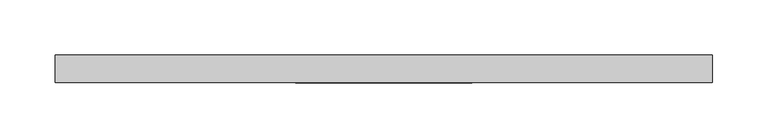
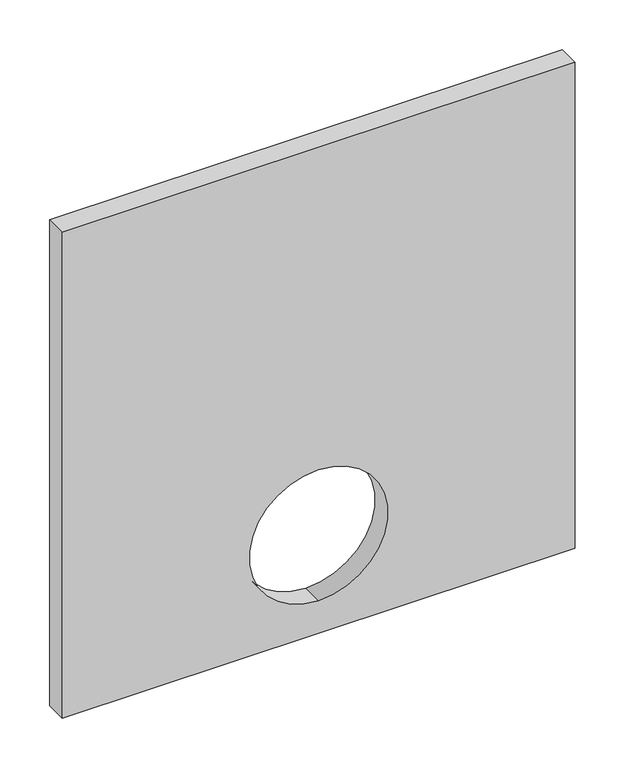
"""IFC4 building model written with IfcOpenShell, lengths in millimetres: valve geometry, Pipelife - Stormbox II - Płyta boczna połączeniowa : Płyta boczna połączeniowa."""

import ifcopenshell
import ifcopenshell.guid

model = None  # the IFC model being written
_history = None  # IfcOwnerHistory: only IFC2X3 demands one
_inside = {}  # id of a spatial element -> (the spatial element, [elements in it])
_under = {}  # id of a project, library or spatial element -> (it, [spatial elements below it])
_declared = {}  # id of a project -> (the project, [libraries it declares])
_typed = {}  # id of a type object -> (the type object, [elements of that type])
_made_of = {}  # id of a material, layer set ... -> (it, [elements and type objects made of it])


def new_model(schema):
    """Start an empty IFC model of exactly this schema.

    Asked for "IFC4X3", IfcOpenShell would pick the latest addendum, in which some entities
    have other attributes; the version numbers below select the first issue.
    IFC2X3 requires an IfcOwnerHistory on every rooted entity: one is made here for all.
    """
    global model, _history
    if schema == "IFC4X3":
        model = ifcopenshell.file(schema_version=(4, 3, 0, 0))
    else:
        model = ifcopenshell.file(schema=schema)
    _inside.clear()
    _under.clear()
    _declared.clear()
    _typed.clear()
    _made_of.clear()
    _history = None
    if model.schema == "IFC2X3":
        org = make("IfcOrganization", Name="unknown")
        user = make(
            "IfcPersonAndOrganization",
            ThePerson=make("IfcPerson", FamilyName="unknown"),
            TheOrganization=org,
        )
        app = make(
            "IfcApplication",
            ApplicationDeveloper=org,
            Version="unknown",
            ApplicationFullName="unknown",
            ApplicationIdentifier="unknown",
        )
        _history = make(
            "IfcOwnerHistory",
            OwningUser=user,
            OwningApplication=app,
            ChangeAction="ADDED",
            CreationDate=0,
        )
    return model


def make(cls, **values):
    """One entity of the class cls with the attributes given. An attribute that is None is left unset."""
    return model.create_entity(
        cls, **{name: value for name, value in values.items() if value is not None}
    )


def rooted(cls, **values):
    """An entity with a GlobalId (a new one), such as an element, a storey or a relation."""
    return make(cls, GlobalId=ifcopenshell.guid.new(), OwnerHistory=_history, **values)


def si_unit(unit_type, name, prefix=None):
    """IfcSIUnit, for example si_unit("LENGTHUNIT", "METRE", prefix="MILLI")."""
    return make("IfcSIUnit", UnitType=unit_type, Prefix=prefix, Name=name)


def assignment(units):
    """IfcUnitAssignment: the units of a project."""
    return None if units is None else make("IfcUnitAssignment", Units=units)


def point(xyz):
    """IfcCartesianPoint."""
    return None if xyz is None else make("IfcCartesianPoint", Coordinates=xyz)


def direction(xyz):
    """IfcDirection."""
    return None if xyz is None else make("IfcDirection", DirectionRatios=xyz)


def frame(location, z_axis=None, x_axis=None):
    """IfcAxis2Placement3D, a coordinate frame: its origin and axes. An axis left out is left unset."""
    return make(
        "IfcAxis2Placement3D",
        Location=point(location),
        Axis=direction(z_axis),
        RefDirection=direction(x_axis),
    )


def frame_2d(location, x_axis=None):
    """IfcAxis2Placement2D, a coordinate frame in the plane: its origin and x axis."""
    return make(
        "IfcAxis2Placement2D", Location=point(location), RefDirection=direction(x_axis)
    )


def origin():
    """The frame at (0, 0, 0) with its axes left unset."""
    return frame((0.0, 0.0, 0.0))


def place(relative_to, where):
    """IfcLocalPlacement: puts the frame where relative to a parent placement (None: the world)."""
    return make(
        "IfcLocalPlacement", PlacementRelTo=relative_to, RelativePlacement=where
    )


def context(
    kind, dimensions, precision=None, world=None, true_north=None, identifier=None
):
    """IfcGeometricRepresentationContext, for example the 3D "Model" context."""
    return make(
        "IfcGeometricRepresentationContext",
        ContextIdentifier=identifier,
        ContextType=kind,
        CoordinateSpaceDimension=dimensions,
        Precision=precision,
        WorldCoordinateSystem=world,
        TrueNorth=true_north,
    )


def project(units=None, contexts=None):
    """IfcProject with its units and contexts."""
    return rooted(
        "IfcProject",
        Name="project",
        RepresentationContexts=contexts,
        UnitsInContext=assignment(units),
    )


def spatial(cls, under=None, at=None, **own):
    """A site, building, storey or space (cls), placed at a placement, below another one or the project."""
    s = rooted(cls, ObjectPlacement=at, **own)
    if under is not None:
        _under.setdefault(under.id(), (under, []))[1].append(s)
    return s


def polyline(points):
    """IfcPolyline through the points."""
    return make("IfcPolyline", Points=[point(p) for p in points])


def circle_curve(where, radius):
    """IfcCircle in the frame where."""
    return make("IfcCircle", Position=where, Radius=radius)


def trimmed(basis, trim1, trim2, sense, master):
    """IfcTrimmedCurve: the piece of a basis curve between two trims."""
    return make(
        "IfcTrimmedCurve",
        BasisCurve=basis,
        Trim1=trim1,
        Trim2=trim2,
        SenseAgreement=sense,
        MasterRepresentation=master,
    )


def segment(curve, same_sense, transition):
    """IfcCompositeCurveSegment."""
    return make(
        "IfcCompositeCurveSegment",
        Transition=transition,
        SameSense=same_sense,
        ParentCurve=curve,
    )


def composite_curve(segments, self_intersect=None):
    """IfcCompositeCurve: segments joined end to end."""
    return make("IfcCompositeCurve", Segments=segments, SelfIntersect=self_intersect)


def outline(outer, holes=None, kind="AREA"):
    """IfcArbitraryClosedProfileDef: a profile drawn as a closed curve; with holes, ...WithVoids."""
    if holes is None:
        return make("IfcArbitraryClosedProfileDef", ProfileType=kind, OuterCurve=outer)
    return make(
        "IfcArbitraryProfileDefWithVoids",
        ProfileType=kind,
        OuterCurve=outer,
        InnerCurves=holes,
    )


def extrude(swept, where, along, depth):
    """IfcExtrudedAreaSolid: the profile swept, set in the frame where, extruded along a direction by depth."""
    return make(
        "IfcExtrudedAreaSolid",
        SweptArea=swept,
        Position=where,
        ExtrudedDirection=direction(along),
        Depth=depth,
    )


def shape(context_of_items, identifier, shape_type, items):
    """IfcShapeRepresentation: the items that make up one representation, for example the "Body"."""
    return make(
        "IfcShapeRepresentation",
        ContextOfItems=context_of_items,
        RepresentationIdentifier=identifier,
        RepresentationType=shape_type,
        Items=items,
    )


def source(mapping_origin, context_of_items, identifier, shape_type, items):
    """IfcRepresentationMap: a shape defined once, which mapped items show again and again."""
    return make(
        "IfcRepresentationMap",
        MappingOrigin=mapping_origin,
        MappedRepresentation=shape(context_of_items, identifier, shape_type, items),
    )


def transform(
    local_origin,
    x_axis=None,
    y_axis=None,
    z_axis=None,
    scale=None,
    scale2=None,
    scale3=None,
    uniform=True,
):
    """IfcCartesianTransformationOperator3D, or its non-uniform kind. x_axis, y_axis, z_axis: its Axis1, 2, 3."""
    if uniform:
        return make(
            "IfcCartesianTransformationOperator3D",
            Axis1=direction(x_axis),
            Axis2=direction(y_axis),
            LocalOrigin=point(local_origin),
            Scale=scale,
            Axis3=direction(z_axis),
        )
    return make(
        "IfcCartesianTransformationOperator3DnonUniform",
        Axis1=direction(x_axis),
        Axis2=direction(y_axis),
        LocalOrigin=point(local_origin),
        Scale=scale,
        Axis3=direction(z_axis),
        Scale2=scale2,
        Scale3=scale3,
    )


def mapped(mapping_source, mapping_target):
    """IfcMappedItem: shows the shape of a source again, moved by a transform."""
    return make(
        "IfcMappedItem", MappingSource=mapping_source, MappingTarget=mapping_target
    )


def made_of(thing, what):
    """Note that an element or type object is made of a material, layer set ...; save() writes the relation."""
    if what is not None:
        _made_of.setdefault(what.id(), (what, []))[1].append(thing)
    return thing


def element(
    cls,
    number,
    at=None,
    inside=None,
    cuts=None,
    type_object=None,
    material=None,
    context=None,
    identifier="Body",
    shape_type=None,
    held_by="IfcProductDefinitionShape",
    body=None,
    shapes=None,
    **own,
):
    """One element of the class cls, such as IfcWall. Its Tag is "e" and its number.

    at: its placement. inside: the storey or other place that contains it. cuts: it is an
    opening in that element (IfcRelVoidsElement). A single representation is given by context,
    identifier, shape_type and body (its items); several are given by shapes. held_by: the class
    of the entity that holds the representations. save() writes the other relations.
    """
    e = rooted(cls, Tag="e%d" % number, ObjectPlacement=at, **own)
    if body is not None:
        shapes = [shape(context, identifier, shape_type, body)]
    if shapes is not None:
        e.Representation = make(held_by, Representations=shapes)
    if inside is not None:
        _inside.setdefault(inside.id(), (inside, []))[1].append(e)
    if cuts is not None:
        rooted(
            "IfcRelVoidsElement", RelatingBuildingElement=cuts, RelatedOpeningElement=e
        )
    if type_object is not None:
        _typed.setdefault(type_object.id(), (type_object, []))[1].append(e)
    return made_of(e, material)


def aggregate(whole, parts):
    """IfcRelAggregates: a whole, such as a stair, and the parts it consists of."""
    return rooted("IfcRelAggregates", RelatingObject=whole, RelatedObjects=parts)


def save(model, path):
    """Write the relations noted so far, then the file.

    IfcRelAggregates (storeys below a building ...), IfcRelContainedInSpatialStructure (elements
    in a storey), IfcRelDefinesByType, IfcRelAssociatesMaterial and IfcRelDeclares: one each for
    every whole, place, type object, material and project.
    """
    for whole, parts in _under.values():
        aggregate(whole, parts)
    for where, things in _inside.values():
        rooted(
            "IfcRelContainedInSpatialStructure",
            RelatedElements=things,
            RelatingStructure=where,
        )
    for kind, things in _typed.values():
        rooted("IfcRelDefinesByType", RelatedObjects=things, RelatingType=kind)
    for what, things in _made_of.values():
        rooted("IfcRelAssociatesMaterial", RelatedObjects=things, RelatingMaterial=what)
    for by, libraries in _declared.values():
        rooted("IfcRelDeclares", RelatingContext=by, RelatedDefinitions=libraries)
    model.write(path)


def valve_1afd6216(model_context):
    return source(origin(), model_context, "Body", "SweptSolid", [
        extrude(outline(polyline([(297.5, 297.0), (297.5, -297.0), (-297.5, -297.0), (-297.5, 297.0), (297.5, 297.0)]), holes=[composite_curve([segment(trimmed(circle_curve(frame_2d((-177.5, 0.0)), 80.0), [point((-97.5, 0.0))], [point((-257.5, 0.0))], True, "CARTESIAN"), True, "CONTINUOUS"), segment(trimmed(circle_curve(frame_2d((-177.5, 0.0)), 80.0), [point((-257.5, 0.0))], [point((-97.5, 0.0))], True, "CARTESIAN"), True, "CONTINUOUS")], self_intersect=False)]), frame((0.0, -25.0, 0.0), z_axis=(0.0, 1.0, 0.0), x_axis=(0.0, 0.0, 1.0)), (0.0, 0.0, 1.0), 25.0),
    ])


if __name__ == "__main__":
    model = new_model("IFC4")
    model_context = context("Model", 3, world=origin())
    ifc_project = project(units=[si_unit("LENGTHUNIT", "METRE", prefix="MILLI")], contexts=[model_context])
    site = spatial("IfcSite", under=ifc_project)
    building = spatial("IfcBuilding", under=site)
    placement = place(None, origin())
    valve_shape = valve_1afd6216(model_context)
    element("IfcValve", 1, ObjectType="Pipelife - Stormbox II - Płyta boczna połączeniowa : Płyta boczna połączeniowa", at=placement, inside=building, context=model_context, shape_type="MappedRepresentation", body=[
        mapped(valve_shape, transform((0.0, 0.0, 0.0), x_axis=(1.0, 0.0, 0.0), y_axis=(0.0, 1.0, 0.0), z_axis=(0.0, 0.0, 1.0))),
    ])
    save(model, "model.ifc")
